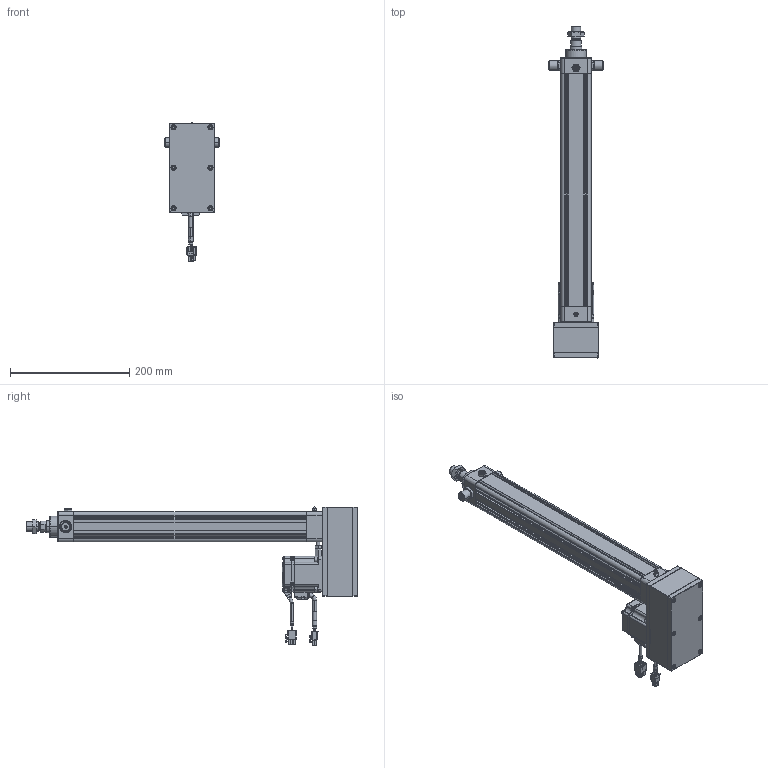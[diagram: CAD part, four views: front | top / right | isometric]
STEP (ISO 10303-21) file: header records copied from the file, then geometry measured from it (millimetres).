
FILE_DESCRIPTION((''),'2;1');
FILE_NAME('HE40-D-100_ASM','2020-05-25T',('ASUS20200'),(''),'CREO PARAMETRIC BY PTC INC, 2014190','CREO PARAMETRIC BY PTC INC, 2014190','');
FILE_SCHEMA(('CONFIG_CONTROL_DESIGN'));
Products named in the file (33): HE40-D-P-001-X1; HE40-D-P-002-X1; HE40-D-P-003-X1; 6200ZZ; SLM-01; YZ-M6X1; JDB202820; HE40-P-010-X1-200W; _MHMF022L1A2; _CABLE_MOTOR_BOTTOM_03; _CABLE_MOTOR_TOP_03; _MOTOR_CONNECTOR_2; _CABLE_BRAKE_BOTTOM_03; _CABLE_BRAKE_TOP_03; _MHMF_CONNECTOR_9_PIN_A6; MHMF022L1A2M2_1_ASM; MHMF022L1A2M2_ASM; JX5X5X20; TD-5; M5X20; LM-M6X1; M6X25; LM-M6-15; M6; HE40-P-012-X2; HE40-P-014-X1; M4X65; HE40-TC; HE40-D-P-005-X1; HE40-D-P-004-X1; HE40-D-P-008-X1; LGLM-M6-22; HE40-D-100_ASM
Assembly tree (50 placements, depth 4):
  HE40-D-100_ASM
    HE40-D-P-001-X1
    HE40-D-P-002-X1
    HE40-D-P-003-X1
    6200ZZ
    SLM-01
    YZ-M6X1
    JDB202820
    HE40-P-010-X1-200W
    MHMF022L1A2M2_ASM
      MHMF022L1A2M2_1_ASM
        _MHMF022L1A2
        _CABLE_MOTOR_BOTTOM_03
        _CABLE_MOTOR_TOP_03
        _MOTOR_CONNECTOR_2
        _CABLE_BRAKE_BOTTOM_03
        _CABLE_BRAKE_TOP_03
        _MHMF_CONNECTOR_9_PIN_A6
    JX5X5X20
    TD-5  x4
    M5X20  x4
    LM-M6X1  x4
    M6X25
    LM-M6-15
    M6
    HE40-P-012-X2
    HE40-P-014-X1
    M4X65  x6
    HE40-TC  x2
    HE40-D-P-005-X1
    HE40-D-P-004-X1
    HE40-D-P-008-X1
    LGLM-M6-22  x4
Bounding box: 91 x 557.5 x 232.7 mm (x, y, z)
Volume: 1092331.2 mm3; surface area: 412012.8 mm2
Topology: 48 solids, 77 shells, 2895 faces, 6922 edges, 4267 vertices
Faces by surface type: plane 1228, cylinder 795, cone 692, torus 142, sphere 34, bspline 4
Entity records: 74910 total; most frequent: CARTESIAN_POINT 14584, DIRECTION 13161, ORIENTED_EDGE 11876, EDGE_CURVE 5996, AXIS2_PLACEMENT_3D 4901, VERTEX_POINT 3733, VECTOR 3359, LINE 3359
